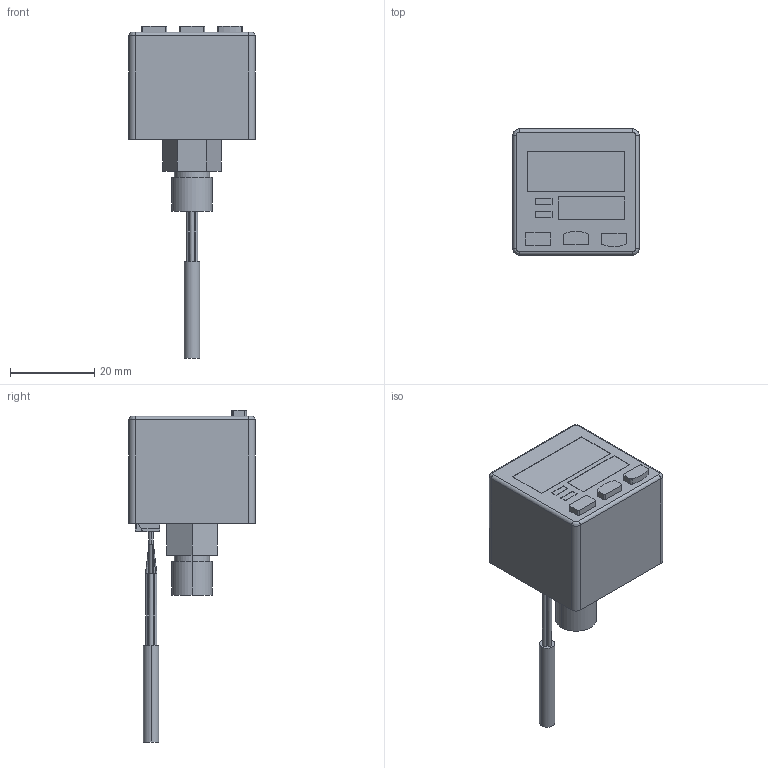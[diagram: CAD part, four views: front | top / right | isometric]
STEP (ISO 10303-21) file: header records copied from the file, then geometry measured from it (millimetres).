
FILE_DESCRIPTION (( 'STEP AP203' ), '1' );
FILE_NAME ('dp-101.STEP', '2014-11-04T01:08:28', ( '' ), ( '' ), 'SwSTEP 2.0', 'SolidWorks 2010', '' );
FILE_SCHEMA (( 'CONFIG_CONTROL_DESIGN' ));
Length unit declared in the file: millimetre
Products named in the file (3): cn-14a-c1; dp-101
Assembly tree (2 placements, depth 2):
  dp-101
    dp-101
    cn-14a-c1
Bounding box: 30 x 30 x 78.9 mm (x, y, z)
Volume: 24499.4 mm3; surface area: 6999.4 mm2
Topology: 2 solids, 2 shells, 234 faces, 604 edges, 398 vertices
Faces by surface type: plane 170, cylinder 52, bspline 12
Entity records: 7991 total; most frequent: CARTESIAN_POINT 1975, ORIENTED_EDGE 1208, DIRECTION 1118, EDGE_CURVE 604, VECTOR 476, LINE 476, VERTEX_POINT 398, AXIS2_PLACEMENT_3D 321
